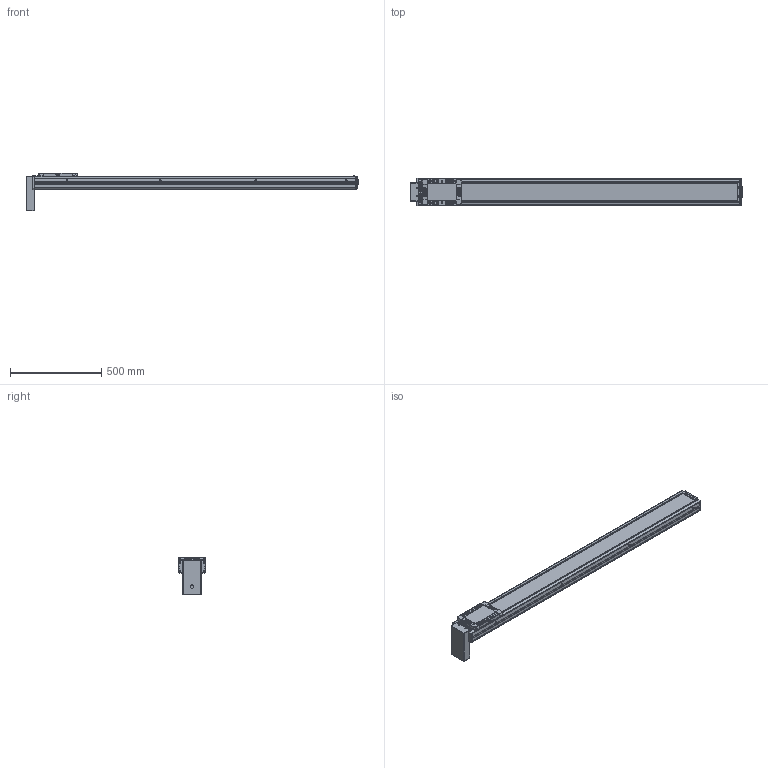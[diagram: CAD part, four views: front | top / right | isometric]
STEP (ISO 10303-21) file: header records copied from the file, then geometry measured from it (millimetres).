
FILE_DESCRIPTION(('STEP AP214'),'1');
FILE_NAME('Z:/Web/3D/SAN150/2013.04 (STP.)/SAN150ㅁㅁ-1500PB.stp','2013-05-07T08:26:49',(' '),(' '),'Spatial InterOp 3D',' ',' ');
FILE_SCHEMA(('automotive_design'));
Length unit declared in the file: millimetre
Products named in the file (44): SLBL-SAN150; SLCV-SAN150; FHCS M4.0 x 8.0; BHCS M4.0 x 10.0; SFX-SAN150; RRCV-SAN150; FRBL-SAN150; Spacer; RN15; FRCV-SAN150; Screw 20; BASE-SAN150-000L ; SUS COVER; 스크루 : Round - M5.0 x 6.0; PB; 스크루 : Round - M3.0 x 6.0
Bounding box: 1820 x 150 x 205.4 mm (x, y, z)
Volume: 9901681.1 mm3; surface area: 1737855.3 mm2
Topology: 44 solids, 44 shells, 2417 faces, 6203 edges, 3936 vertices
Faces by surface type: plane 1097, cylinder 889, cone 330, sphere 68, bspline 21, torus 12
Entity records: 96444 total; most frequent: CARTESIAN_POINT 16354, DIRECTION 13216, ORIENTED_EDGE 12110, EDGE_CURVE 6055, AXIS2_PLACEMENT_3D 4849, VERTEX_POINT 3936, LINE 3518, VECTOR 3518
